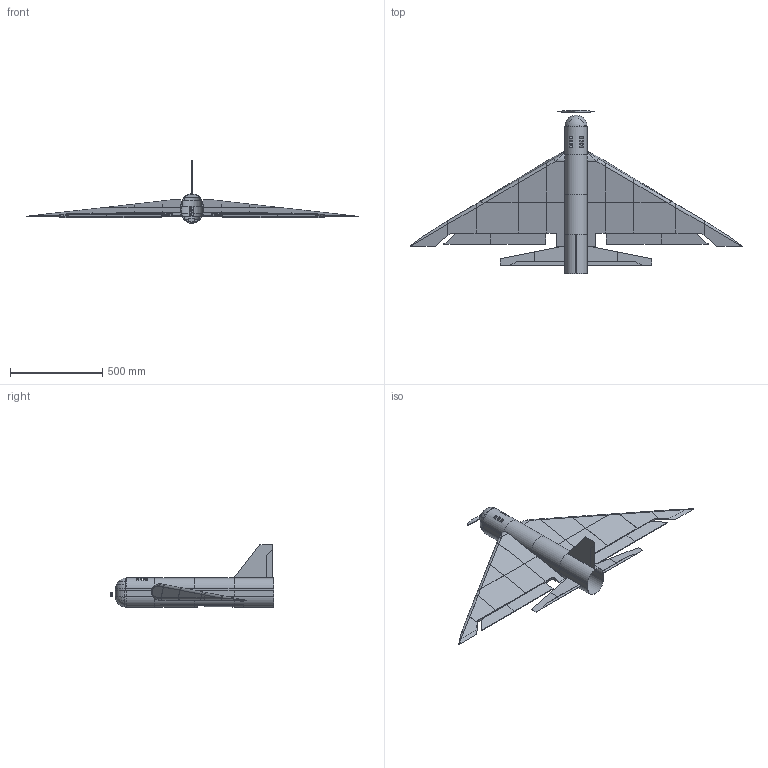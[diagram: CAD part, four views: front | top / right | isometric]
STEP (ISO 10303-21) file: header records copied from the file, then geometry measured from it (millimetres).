
FILE_DESCRIPTION(/* description */ ('STEP AP242 Edition 2','CAx-IF Rec.Pracs.---Representation and Presentation of Product Manufacturing Information (PMI)---4.0---2014-10-13','CAx-IF Rec.Pracs.---3D Tessellated Geometry---0.4---2014-09-14','2;1','CAx-IF Rec.Pracs.---User Defined Attributes---1.5---2016-08-15'),/* implementation_level */ '2;1');
FILE_NAME(/* name */ '6af5d5cedc21e661892e151a',/* time_stamp */ '2026-11-12T15:05:51Z',/* author */ (''),/* organization */ (''),/* preprocessor_version */ 'ST-DEVELOPER v20',/* originating_system */ 'ONSHAPE BY PTC INC, 1.223',/* authorisation */ ' ');
FILE_SCHEMA (('AP242_MANAGED_MODEL_BASED_3D_ENGINEERING_MIM_LF { 1 0 10303 442 3 1 4 }'));
Length unit declared in the file: metre
Products named in the file (43): Assembly 1; Part 38; Part 5; Part 11; Part 15; Part 31; Part 9; Part 6; Part 39; Part 12; Part 25; Part 37; Part 35; Part 17; Part 36; Part 7; Part 8; Part 32; Part 34; Part 23; Part 19; Part 29; Part 24; Part 27; Part 4; Part 1; Part 18; Part 22; Part 30; Part 28; Part 16; Part 21; Part 2; Pinion-2; Part 20; Part 10; Part 13; Rack-1; Part 14; Part 33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
Assembly tree (42 placements, depth 2):
  Assembly 1
    Part 38
    Part 5
    Part 11
    Part 15
    Part 31
    Part 9
    Part 6
    Part 39
    Part 12
    Part 25
    Part 37
    Part 35
    Part 17
    Part 36
    Part 7
    Part 8
    Part 32
    Part 34
    Part 23
    Part 19
    Part 29
    Part 24
    Part 27
    Part 4
    Part 1
    Part 18
    Part 22
    Part 30
    Part 28
    Part 16
    Part 1
    Part 21
    Part 2
    Pinion-2
    Part 20
    Part 10
    Part 13
    Rack-1
    Part 14
    Part 33
    Part 3
    Part 26
Bounding box: 1802.11 x 886.96 x 340 mm (x, y, z)
Volume: 3402213.6 mm3; surface area: 2769935.2 mm2
Topology: 42 solids, 42 shells, 680 faces, 1770 edges, 1172 vertices
Faces by surface type: plane 562, cylinder 102, bspline 8, cone 6, sphere 2
Full cylindrical faces by diameter (mm): 4 x1, 6 x1, 15 x1, 20 x1
Entity records: 30217 total; most frequent: CARTESIAN_POINT 12270, ORIENTED_EDGE 3518, DIRECTION 3398, EDGE_CURVE 1759, LINE 1488, VECTOR 1488, VERTEX_POINT 1169, AXIS2_PLACEMENT_3D 955
